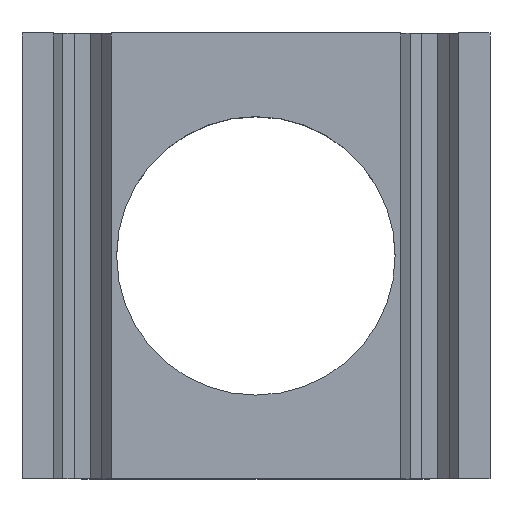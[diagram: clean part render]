
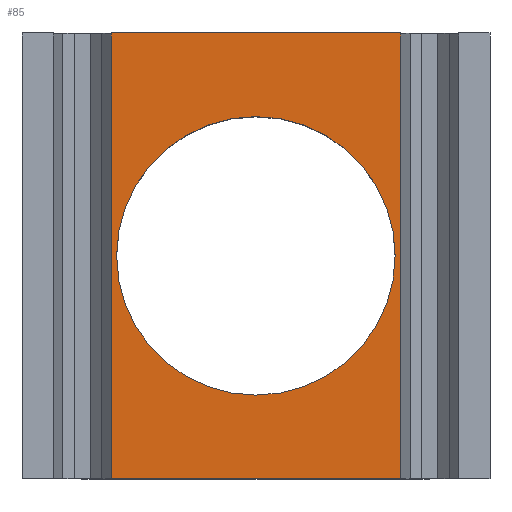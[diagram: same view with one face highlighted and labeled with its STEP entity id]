
A CAD part, top view. The second image highlights one B-rep face of the part: STEP entity #85.
In plain terms, the highlighted planar face has unit normal (0, 0, 1).
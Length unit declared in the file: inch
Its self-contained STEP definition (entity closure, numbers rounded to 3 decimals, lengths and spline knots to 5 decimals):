
#85=ADVANCED_FACE('',(#172,#173),#174,.T.);
#172=FACE_BOUND('',#1287,.T.);
#173=FACE_OUTER_BOUND('',#1288,.T.);
#174=PLANE('',#1289);
#1287=EDGE_LOOP('',(#2439,#2440));
#1288=EDGE_LOOP('',(#2441,#2442,#2443,#2444));
#1289=AXIS2_PLACEMENT_3D('',#2445,#2446,#2447);
#2439=ORIENTED_EDGE('',*,*,#2634,.T.);
#2440=ORIENTED_EDGE('',*,*,#2635,.T.);
#2441=ORIENTED_EDGE('',*,*,#2636,.T.);
#2442=ORIENTED_EDGE('',*,*,#2622,.F.);
#2443=ORIENTED_EDGE('',*,*,#2637,.F.);
#2444=ORIENTED_EDGE('',*,*,#2638,.T.);
#2445=CARTESIAN_POINT('',(0.32027,1.24999,0.50005));
#2446=DIRECTION('',(0.0,0.0,1.0));
#2447=DIRECTION('',(-1.0,0.0,0.0));
#2622=EDGE_CURVE('',#2742,#2737,#2744,.T.);
#2634=EDGE_CURVE('',#2764,#2765,#2766,.T.);
#2635=EDGE_CURVE('',#2765,#2764,#2767,.T.);
#2636=EDGE_CURVE('',#2768,#2737,#2769,.T.);
#2637=EDGE_CURVE('',#2770,#2742,#2771,.T.);
#2638=EDGE_CURVE('',#2770,#2768,#2772,.T.);
#2737=VERTEX_POINT('',#3212);
#2742=VERTEX_POINT('',#3219);
#2744=LINE('',#3222,#3223);
#2764=VERTEX_POINT('',#3251);
#2765=VERTEX_POINT('',#3252);
#2766=CIRCLE('',#3253,0.39063);
#2767=CIRCLE('',#3254,0.39063);
#2768=VERTEX_POINT('',#3255);
#2769=LINE('',#3256,#3257);
#2770=VERTEX_POINT('',#3258);
#2771=LINE('',#3259,#3260);
#2772=LINE('',#3261,#3262);
#3212=CARTESIAN_POINT('',(0.72597,-0.00001,0.50005));
#3219=CARTESIAN_POINT('',(0.72597,1.24999,0.50005));
#3222=CARTESIAN_POINT('',(0.72597,1.24999,0.50005));
#3223=VECTOR('',#3385,1.);
#3251=CARTESIAN_POINT('',(-0.07069,0.62499,0.50005));
#3252=CARTESIAN_POINT('',(0.71056,0.62499,0.50005));
#3253=AXIS2_PLACEMENT_3D('',#3394,#3395,#3396);
#3254=AXIS2_PLACEMENT_3D('',#3397,#3398,#3399);
#3255=CARTESIAN_POINT('',(-0.08543,-0.00001,0.50005));
#3256=CARTESIAN_POINT('',(-0.08543,-0.00001,0.50005));
#3257=VECTOR('',#3400,1.0);
#3258=CARTESIAN_POINT('',(-0.08543,1.24999,0.50005));
#3259=CARTESIAN_POINT('',(-0.08543,1.24999,0.50005));
#3260=VECTOR('',#3401,1.0);
#3261=CARTESIAN_POINT('',(-0.08543,1.24999,0.50005));
#3262=VECTOR('',#3402,1.);
#3385=DIRECTION('',(0.0,-1.0,0.0));
#3394=CARTESIAN_POINT('',(0.31994,0.62499,0.50005));
#3395=DIRECTION('',(0.0,0.0,-1.0));
#3396=DIRECTION('',(1.0,0.0,0.0));
#3397=CARTESIAN_POINT('',(0.31994,0.62499,0.50005));
#3398=DIRECTION('',(0.0,0.0,-1.0));
#3399=DIRECTION('',(1.0,0.0,0.0));
#3400=DIRECTION('',(1.0,0.0,0.0));
#3401=DIRECTION('',(1.0,0.0,0.0));
#3402=DIRECTION('',(0.0,-1.0,0.0));
